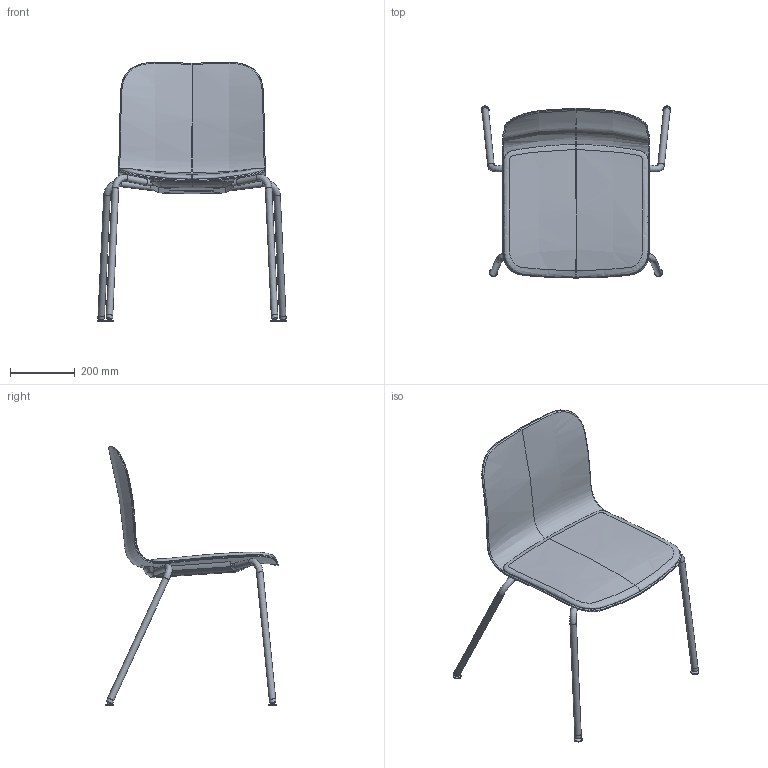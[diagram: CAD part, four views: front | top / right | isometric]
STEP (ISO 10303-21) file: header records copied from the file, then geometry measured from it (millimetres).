
FILE_DESCRIPTION(/* description */ (''),/* implementation_level */ '2;1');
FILE_NAME(/* name */ 'Lambda LA4002-090',/* time_stamp */ '2024-03-04T14:40:39+01:00',/* author */ (''),/* organization */ (''),/* preprocessor_version */ 'ST-DEVELOPER v16.5',/* originating_system */ 'Rhino 7.35',/* authorisation */ '');
FILE_SCHEMA (('CONFIG_CONTROL_DESIGN'));
Length unit declared in the file: millimetre
Products named in the file (1): Document
Bounding box: 583.67 x 530.54 x 797.34 mm (x, y, z)
Volume: 18066.7 mm3; surface area: 1226732.5 mm2
Topology: 8 solids, 23 shells, 918 faces, 2409 edges, 1600 vertices
Faces by surface type: plane 434, bspline 368, cylinder 116
Full cylindrical faces by diameter (mm): 20 x18, 22 x4, 24.5 x4
Entity records: 76488 total; most frequent: CARTESIAN_POINT 60447, ORIENTED_EDGE 4738, EDGE_CURVE 2402, B_SPLINE_CURVE_WITH_KNOTS 2257, VERTEX_POINT 1594, EDGE_LOOP 1003, ADVANCED_FACE 918, FACE_OUTER_BOUND 918
